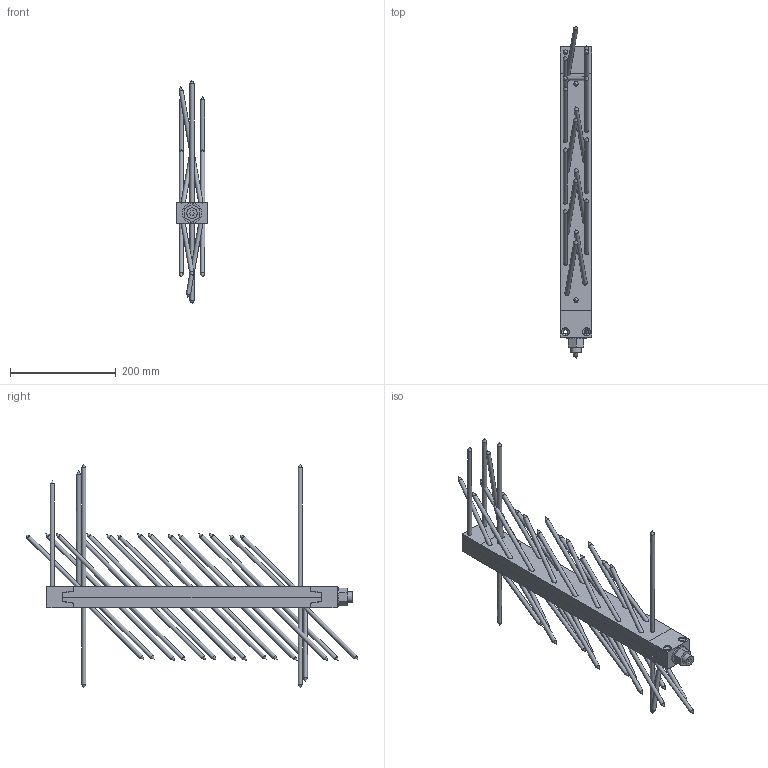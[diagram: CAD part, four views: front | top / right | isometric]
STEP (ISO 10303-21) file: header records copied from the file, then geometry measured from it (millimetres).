
FILE_DESCRIPTION(/* description */ ('Unknown'),/* implementation_level */ '2;1');
FILE_NAME(/* name */ 'MEGANT_550x60x40_Verdeckt',/* time_stamp */ '2023-11-09T15:25:07+01:00',/* author */ ('Unknown'),/* organization */ ('Unknown'),/* preprocessor_version */ 'ST-DEVELOPER v18.104',/* originating_system */ 'Solid Edge',/* authorisation */ 'Unknown');
FILE_SCHEMA (('AUTOMOTIVE_DESIGN {1 0 10303 214 3 1 1}'));
Length unit declared in the file: millimetre
Products named in the file (13): MEGANT_550x60x40_Verdeckt; Verbinderplatte_490x60x20_HT; Verbinderplatte_490x60x20; SK_Schraube_8x160; Verbinderplatte_490x60x20_NT; SK_Schraube_8x240; Spannbacke_oben_60x50x40; Spannbacke_unten_60x50x40_NT; Spannbacke_unten_60x50x40; Gewindestange_M20_L580; Mutter_M20; Beilagscheibe_M20
Assembly tree (49 placements, depth 3):
  MEGANT_550x60x40_Verdeckt
    Verbinderplatte_490x60x20_HT
      Verbinderplatte_490x60x20
      SK_Schraube_8x160  x18
    Verbinderplatte_490x60x20_NT
      Verbinderplatte_490x60x20
      SK_Schraube_8x160  x15
      SK_Schraube_8x240  x3
    Spannbacke_oben_60x50x40
    Spannbacke_unten_60x50x40_NT
      Spannbacke_unten_60x50x40
      SK_Schraube_8x240  x2
    Gewindestange_M20_L580
      Gewindestange_M20_L580
      Mutter_M20
      Beilagscheibe_M20
Bounding box: 60 x 628.99 x 424 mm (x, y, z)
Volume: 1493001.2 mm3; surface area: 451918 mm2
Topology: 45 solids, 45 shells, 459 faces, 1053 edges, 655 vertices
Faces by surface type: plane 173, cylinder 170, cone 116
Full cylindrical faces by diameter (mm): 8 x38, 8.5 x40, 15 x78, 17.294 x1, 19.294 x1, 20 x1, 21 x2, 37 x1
Entity records: 5462 total; most frequent: DIRECTION 904, CARTESIAN_POINT 818, ORIENTED_EDGE 668, AXIS2_PLACEMENT_3D 346, EDGE_CURVE 334, FACE_BOUND 310, EDGE_LOOP 308, VERTEX_POINT 260
